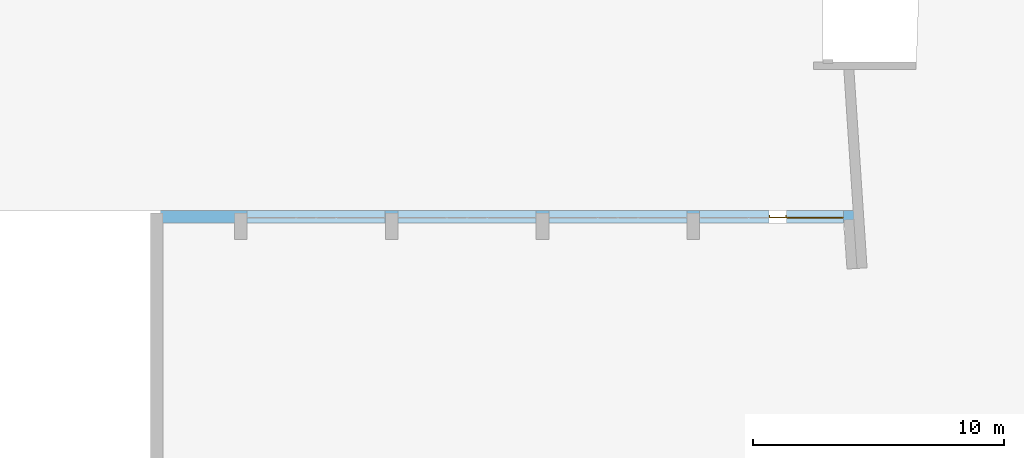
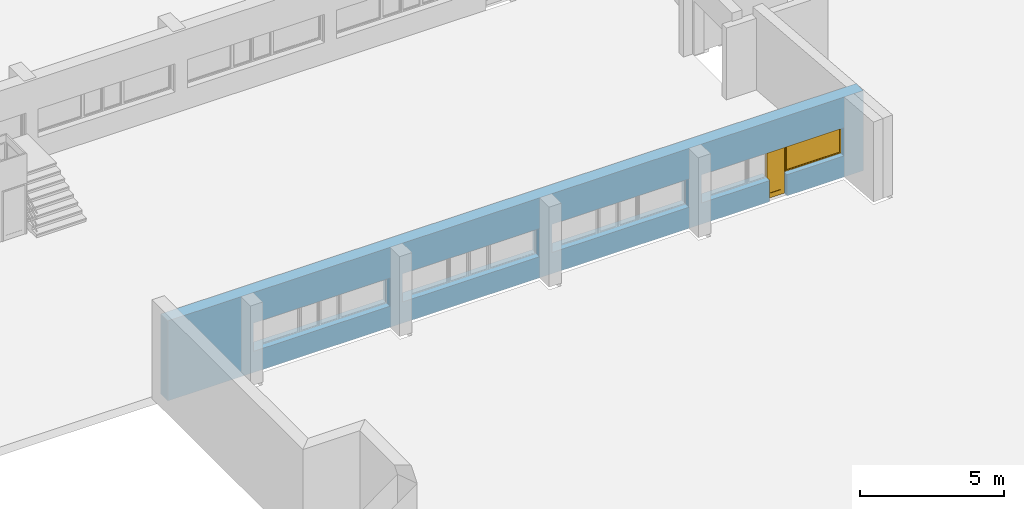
# One storey, part 18 of 36: 1 door, 1 window, 9 openings, plus 1 element that does not belong to this part.
"""IFC2X3 building model written with IfcOpenShell, lengths in millimetres."""

from ifc_helpers import new_model, entity, si_unit, converted_unit, money_unit, direction, frame, origin_with_axes, place, context, subcontext, project, spatial, polyline, outline, extrude, open_shell, faceted_brep, surface_model, material, material_list, layer, layer_set, layer_usage, type_object, element, fill, save


model = new_model("IFC2X3")

# Units and contexts
model_context = context("Model", 3, precision=1e-05, world=origin_with_axes(), true_north=direction((0.0, 1.0)))
body_context = subcontext(model_context, "Body", "Model", "MODEL_VIEW")
ifc_project = project(units=[si_unit("LENGTHUNIT", "METRE", prefix="MILLI"), si_unit("AREAUNIT", "SQUARE_METRE"), si_unit("VOLUMEUNIT", "CUBIC_METRE"), converted_unit("PLANEANGLEUNIT", "DEGREE", entity("IfcPlaneAngleMeasure", 0.0174532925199), si_unit("PLANEANGLEUNIT", "RADIAN"), dimensions=[0, 0, 0, 0, 0, 0, 0]), si_unit("SOLIDANGLEUNIT", "STERADIAN"), money_unit("USD"), converted_unit("TIMEUNIT", "Year", entity("IfcTimeMeasure", 31556926.0), si_unit("TIMEUNIT", "SECOND"), dimensions=[0, 0, 0, 0, 0, 0, 0]), si_unit("MASSUNIT", "GRAM"), si_unit("THERMODYNAMICTEMPERATUREUNIT", "DEGREE_CELSIUS"), si_unit("LUMINOUSINTENSITYUNIT", "LUMEN")], contexts=[model_context])

# Site, building, storey
site_placement = place(None, origin_with_axes())
site = spatial("IfcSite", under=ifc_project, at=site_placement, Name="Site", CompositionType="ELEMENT")
building_placement = place(site_placement, origin_with_axes())
building = spatial("IfcBuilding", under=site, at=building_placement, Name="Building", CompositionType="ELEMENT")
storey_placement = place(building_placement, frame((0.0, 0.0, -3400.0), z_axis=(0.0, 0.0, 1.0), x_axis=(1.0, 0.0, 0.0)))
storey = spatial("IfcBuildingStorey", under=building, at=storey_placement, Name="1KORRUS", CompositionType="ELEMENT", Elevation=-3400.0)

# Wall, openings, window, door
ifc_material_1 = material(Name="Olemasolevad seinad tellis, uus viimistlus")
ifc_layer = layer(ifc_material_1, 500.0, ventilated="UNKNOWN")
ifc_layer_set = layer_set([ifc_layer], Name="Olemasolevad seinad tellis, uus viimistlus 500")
ifc_layer_usage = layer_usage(ifc_layer_set, "AXIS2", "POSITIVE", -400.0)
wall_type = type_object("IfcWallType", Name="Olemasolevad seinad tellis, uus viimistlus 500", PredefinedType="NOTDEFINED")
wall_placement = place(storey_placement, frame((-9331.84569337, -19738.87569, 0.0), z_axis=(0.0, 0.0, 1.0), x_axis=(1.0, 0.0, 0.0)))
wall = element("IfcWallStandardCase", 1, at=wall_placement, inside=storey, type_object=wall_type, material=ifc_layer_usage, Name="VS1", ObjectType="VS1", context=body_context, shape_type="SweptSolid", body=[
    extrude(outline(polyline([(0.0, -400.0), (27956.8716013, -400.0), (27956.8716013, 100.0), (0.0, 100.0), (0.0, -400.0)])), origin_with_axes(), (0.0, 0.0, 1.0), 3400.0),
])
opening_1_placement = place(wall_placement, frame((19566.5489901, 0.0, 900.0), z_axis=(0.0, 0.0, 1.0), x_axis=(1.0, 0.0, 0.0)))
element("IfcOpeningElement", 2, at=opening_1_placement, cuts=wall, Name="Olemasolevad aknad jäävad", context=body_context, shape_type="SweptSolid", body=[
    extrude(outline(polyline([(-1375.0, 1200.0), (-1375.0, 0.0), (1375.0, 0.0), (1375.0, 1200.0), (-1375.0, 1200.0)])), frame((0.0, -200.0, 0.0), z_axis=(0.0, 1.0, 0.0), x_axis=(-1.0, 0.0, 0.0)), (0.0, 0.0, 1.0), 800.0),
    extrude(outline(polyline([(-1375.0, 0.0), (-1375.0, -1200.0), (1375.0, -1200.0), (1375.0, 0.0), (-1375.0, 0.0)])), frame((0.0, -200.0, 0.0), z_axis=(0.0, -1.0, 0.0), x_axis=(-1.0, 0.0, 0.0)), (0.0, 0.0, 1.0), 700.0),
])
opening_2_placement = place(wall_placement, frame((16816.5489901, 0.0, 900.0), z_axis=(0.0, 0.0, 1.0), x_axis=(1.0, 0.0, 0.0)))
element("IfcOpeningElement", 3, at=opening_2_placement, cuts=wall, Name="Olemasolevad aknad jäävad", context=body_context, shape_type="SweptSolid", body=[
    extrude(outline(polyline([(1375.0, 1200.0), (-1375.0, 1200.0), (-1375.0, 0.0), (1375.0, 0.0), (1375.0, 1200.0)])), frame((0.0, -200.0, 0.0), z_axis=(0.0, 1.0, 0.0), x_axis=(-1.0, 0.0, 0.0)), (0.0, 0.0, 1.0), 800.0),
    extrude(outline(polyline([(1375.0, 0.0), (-1375.0, 0.0), (-1375.0, -1200.0), (1375.0, -1200.0), (1375.0, 0.0)])), frame((0.0, -200.0, 0.0), z_axis=(0.0, -1.0, 0.0), x_axis=(-1.0, 0.0, 0.0)), (0.0, 0.0, 1.0), 700.0),
])
opening_3_placement = place(wall_placement, frame((13566.5489901, 0.0, 900.0), z_axis=(0.0, 0.0, 1.0), x_axis=(1.0, 0.0, 0.0)))
element("IfcOpeningElement", 4, at=opening_3_placement, cuts=wall, Name="Olemasolevad aknad jäävad", context=body_context, shape_type="SweptSolid", body=[
    extrude(outline(polyline([(-1375.0, 1200.0), (-1375.0, 0.0), (1375.0, 0.0), (1375.0, 1200.0), (-1375.0, 1200.0)])), frame((0.0, -200.0, 0.0), z_axis=(0.0, 1.0, 0.0), x_axis=(-1.0, 0.0, 0.0)), (0.0, 0.0, 1.0), 800.0),
    extrude(outline(polyline([(-1375.0, 0.0), (-1375.0, -1200.0), (1375.0, -1200.0), (1375.0, 0.0), (-1375.0, 0.0)])), frame((0.0, -200.0, 0.0), z_axis=(0.0, -1.0, 0.0), x_axis=(-1.0, 0.0, 0.0)), (0.0, 0.0, 1.0), 700.0),
])
opening_4_placement = place(wall_placement, frame((10816.5489901, 0.0, 900.0), z_axis=(0.0, 0.0, 1.0), x_axis=(1.0, 0.0, 0.0)))
element("IfcOpeningElement", 5, at=opening_4_placement, cuts=wall, Name="Olemasolevad aknad jäävad", context=body_context, shape_type="SweptSolid", body=[
    extrude(outline(polyline([(1375.0, 1200.0), (-1375.0, 1200.0), (-1375.0, 0.0), (1375.0, 0.0), (1375.0, 1200.0)])), frame((0.0, -200.0, 0.0), z_axis=(0.0, 1.0, 0.0), x_axis=(-1.0, 0.0, 0.0)), (0.0, 0.0, 1.0), 800.0),
    extrude(outline(polyline([(1375.0, 0.0), (-1375.0, 0.0), (-1375.0, -1200.0), (1375.0, -1200.0), (1375.0, 0.0)])), frame((0.0, -200.0, 0.0), z_axis=(0.0, -1.0, 0.0), x_axis=(-1.0, 0.0, 0.0)), (0.0, 0.0, 1.0), 700.0),
])
opening_5_placement = place(wall_placement, frame((7558.41773708, 0.0, 900.0), z_axis=(0.0, 0.0, 1.0), x_axis=(1.0, 0.0, 0.0)))
element("IfcOpeningElement", 6, at=opening_5_placement, cuts=wall, Name="Olemasolevad aknad jäävad", context=body_context, shape_type="SweptSolid", body=[
    extrude(outline(polyline([(-1375.0, 1200.0), (-1375.0, 0.0), (1375.0, 0.0), (1375.0, 1200.0), (-1375.0, 1200.0)])), frame((0.0, -200.0, 0.0), z_axis=(0.0, 1.0, 0.0), x_axis=(-1.0, 0.0, 0.0)), (0.0, 0.0, 1.0), 800.0),
    extrude(outline(polyline([(-1375.0, 0.0), (-1375.0, -1200.0), (1375.0, -1200.0), (1375.0, 0.0), (-1375.0, 0.0)])), frame((0.0, -200.0, 0.0), z_axis=(0.0, -1.0, 0.0), x_axis=(-1.0, 0.0, 0.0)), (0.0, 0.0, 1.0), 700.0),
])
opening_6_placement = place(wall_placement, frame((4816.54899006, 0.0, 900.0), z_axis=(0.0, 0.0, 1.0), x_axis=(1.0, 0.0, 0.0)))
element("IfcOpeningElement", 7, at=opening_6_placement, cuts=wall, Name="Olemasolevad aknad jäävad", context=body_context, shape_type="SweptSolid", body=[
    extrude(outline(polyline([(1375.0, 1200.0), (-1375.0, 1200.0), (-1375.0, 0.0), (1375.0, 0.0), (1375.0, 1200.0)])), frame((0.0, -200.0, 0.0), z_axis=(0.0, 1.0, 0.0), x_axis=(-1.0, 0.0, 0.0)), (0.0, 0.0, 1.0), 800.0),
    extrude(outline(polyline([(1375.0, 0.0), (-1375.0, 0.0), (-1375.0, -1200.0), (1375.0, -1200.0), (1375.0, 0.0)])), frame((0.0, -200.0, 0.0), z_axis=(0.0, -1.0, 0.0), x_axis=(-1.0, 0.0, 0.0)), (0.0, 0.0, 1.0), 700.0),
])
opening_7_placement = place(wall_placement, frame((22816.5489901, 0.0, 900.0), z_axis=(0.0, 0.0, 1.0), x_axis=(1.0, 0.0, 0.0)))
element("IfcOpeningElement", 8, at=opening_7_placement, cuts=wall, Name="Olemasolevad aknad jäävad", context=body_context, shape_type="SweptSolid", body=[
    extrude(outline(polyline([(1375.0, 1200.0), (-1375.0, 1200.0), (-1375.0, 0.0), (1375.0, 0.0), (1375.0, 1200.0)])), frame((0.0, -200.0, 0.0), z_axis=(0.0, 1.0, 0.0), x_axis=(-1.0, 0.0, 0.0)), (0.0, 0.0, 1.0), 800.0),
    extrude(outline(polyline([(1375.0, 0.0), (-1375.0, 0.0), (-1375.0, -1200.0), (1375.0, -1200.0), (1375.0, 0.0)])), frame((0.0, -200.0, 0.0), z_axis=(0.0, -1.0, 0.0), x_axis=(-1.0, 0.0, 0.0)), (0.0, 0.0, 1.0), 700.0),
])
opening_8_placement = place(wall_placement, frame((26032.4269663, 0.0, 900.0), z_axis=(0.0, 0.0, 1.0), x_axis=(1.0, 0.0, 0.0)))
opening_8 = element("IfcOpeningElement", 9, at=opening_8_placement, cuts=wall, Name="Olemasolevad aknad jäävad", context=body_context, shape_type="SweptSolid", body=[
    extrude(outline(polyline([(1140.806, 1200.0), (-1140.806, 1200.0), (-1140.806, 0.0), (1140.806, 0.0), (1140.806, 1200.0)])), frame((0.0, -200.0, 0.0), z_axis=(0.0, 1.0, 0.0), x_axis=(-1.0, 0.0, 0.0)), (0.0, 0.0, 1.0), 800.0),
    extrude(outline(polyline([(1140.806, 0.0), (-1140.806, 0.0), (-1140.806, -1200.0), (1140.806, -1200.0), (1140.806, 0.0)])), frame((0.0, -200.0, 0.0), z_axis=(0.0, -1.0, 0.0), x_axis=(-1.0, 0.0, 0.0)), (0.0, 0.0, 1.0), 700.0),
])
opening_9_placement = place(wall_placement, frame((24541.5489901, 0.0, -4.66441168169), z_axis=(0.0, 0.0, 1.0), x_axis=(1.0, 0.0, 0.0)))
opening_9 = element("IfcOpeningElement", 10, at=opening_9_placement, cuts=wall, Name="ava", context=body_context, shape_type="SweptSolid", body=[
    extrude(outline(polyline([(-350.0, 2100.0), (-350.0, 0.0), (350.0, 0.0), (350.0, 2100.0), (-350.0, 2100.0)])), frame((0.0, -200.0, 0.0), z_axis=(0.0, 1.0, 0.0), x_axis=(-1.0, 0.0, 0.0)), (0.0, 0.0, 1.0), 800.0),
    extrude(outline(polyline([(-350.0, 0.0), (-350.0, -2100.0), (350.0, -2100.0), (350.0, 0.0), (-350.0, 0.0)])), frame((0.0, -200.0, 0.0), z_axis=(0.0, -1.0, 0.0), x_axis=(-1.0, 0.0, 0.0)), (0.0, 0.0, 1.0), 700.0),
])
ifc_material_2 = material(Name="Background")
ifc_material_list = material_list([ifc_material_2])
window_style = type_object("IfcWindowStyle", Name="Window 19", ConstructionType="NOTDEFINED", OperationType="SINGLE_PANEL", ParameterTakesPrecedence=False, Sizeable=False)
window_placement = place(opening_8_placement, frame((1140.80638881, 0.0, 0.0), z_axis=(0.0, 0.0, 1.0), x_axis=(-1.0, 0.0, 0.0)))
window = element("IfcWindow", 11, at=window_placement, inside=storey, type_object=window_style, material=ifc_material_list, Name="Olemasolevad aknad jäävad", ObjectType="Olemasolevad aknad jäävad", OverallHeight=1200.0, OverallWidth=2281.61, context=body_context, shape_type="SurfaceModel", body=[
    faceted_brep([(2256.613, 200.0, 1150.0), (2256.613, 175.0, 1150.0), (2231.613, 175.0, 1150.0), (2231.613, 150.0, 1150.0), (2281.613, 150.0, 1150.0), (2281.613, 200.0, 1150.0), (2256.613, 200.0, 50.0), (2256.613, 175.0, 50.0), (2231.613, 175.0, 50.0), (2231.613, 150.0, 50.0), (2281.613, 150.0, 50.0), (2281.613, 200.0, 50.0)], [[[0, 1, 2, 3, 4, 5]], [[1, 0, 6, 7]], [[8, 2, 1, 7]], [[2, 8, 9, 3]], [[4, 3, 9, 10]], [[5, 4, 10, 11]], [[6, 0, 5, 11]], [[7, 6, 11, 10, 9, 8]]]),
    faceted_brep([(50.0, 175.0, 1150.0), (25.0, 175.0, 1150.0), (25.0, 200.0, 1150.0), (0.0, 200.0, 1150.0), (0.0, 150.0, 1150.0), (50.0, 150.0, 1150.0), (50.0, 175.0, 50.0), (25.0, 175.0, 50.0), (25.0, 200.0, 50.0), (0.0, 200.0, 50.0), (0.0, 150.0, 50.0), (50.0, 150.0, 50.0)], [[[0, 1, 2, 3, 4, 5]], [[1, 0, 6, 7]], [[8, 2, 1, 7]], [[2, 8, 9, 3]], [[9, 10, 4, 3]], [[10, 11, 5, 4]], [[6, 0, 5, 11]], [[7, 6, 11, 10, 9, 8]]]),
    faceted_brep([(50.0, 175.0, 50.0), (25.0, 175.0, 50.0), (25.0, 200.0, 50.0), (0.0, 200.0, 50.0), (0.0, 150.0, 50.0), (50.0, 150.0, 50.0), (2231.613, 175.0, 50.0), (2256.613, 175.0, 50.0), (2256.613, 175.0, 25.0), (25.0, 175.0, 25.0), (25.0, 200.0, 25.0), (2256.613, 200.0, 25.0), (2256.613, 200.0, 50.0), (2281.613, 200.0, 50.0), (2281.613, 200.0, 0.0), (0.0, 200.0, 0.0), (0.0, 150.0, 0.0), (2281.613, 150.0, 50.0), (2231.613, 150.0, 50.0), (2281.613, 150.0, 0.0)], [[[0, 1, 2, 3, 4, 5]], [[1, 0, 6, 7, 8, 9]], [[10, 2, 1, 9]], [[11, 12, 13, 14, 15, 3, 2, 10]], [[15, 16, 4, 3]], [[17, 18, 5, 4, 16, 19]], [[6, 0, 5, 18]], [[7, 6, 18, 17, 13, 12]], [[7, 12, 11, 8]], [[11, 10, 9, 8]], [[13, 17, 19, 14]], [[14, 19, 16, 15]]]),
    faceted_brep([(2256.613, 200.0, 1150.0), (2256.613, 200.0, 1175.0), (25.0, 200.0, 1175.0), (25.0, 200.0, 1150.0), (0.0, 200.0, 1150.0), (0.0, 200.0, 1200.0), (2281.613, 200.0, 1200.0), (2281.613, 200.0, 1150.0), (2256.613, 175.0, 1150.0), (2256.613, 175.0, 1175.0), (25.0, 175.0, 1175.0), (25.0, 175.0, 1150.0), (50.0, 175.0, 1150.0), (50.0, 150.0, 1150.0), (0.0, 150.0, 1150.0), (0.0, 150.0, 1200.0), (2281.613, 150.0, 1200.0), (2281.613, 150.0, 1150.0), (2231.613, 150.0, 1150.0), (2231.613, 175.0, 1150.0)], [[[0, 1, 2, 3, 4, 5, 6, 7]], [[1, 0, 8, 9]], [[2, 1, 9, 10]], [[3, 2, 10, 11]], [[11, 12, 13, 14, 4, 3]], [[4, 14, 15, 5]], [[5, 15, 16, 6]], [[6, 16, 17, 7]], [[8, 0, 7, 17, 18, 19]], [[12, 11, 10, 9, 8, 19]], [[12, 19, 18, 13]], [[14, 13, 18, 17, 16, 15]]]),
    faceted_brep([(2206.613, 175.0, 1125.0), (2256.613, 175.0, 1125.0), (2256.613, 225.0, 1125.0), (2206.613, 225.0, 1125.0), (2206.613, 175.0, 75.0), (2256.613, 175.0, 75.0), (2256.613, 225.0, 75.0), (2206.613, 225.0, 75.0)], [[[0, 1, 2, 3]], [[0, 4, 5, 1]], [[1, 5, 6, 2]], [[3, 2, 6, 7]], [[4, 0, 3, 7]], [[5, 4, 7, 6]]]),
    faceted_brep([(75.0, 175.0, 75.0), (25.0, 175.0, 75.0), (25.0, 225.0, 75.0), (75.0, 225.0, 75.0), (75.0, 175.0, 1125.0), (25.0, 175.0, 1125.0), (25.0, 225.0, 1125.0), (75.0, 225.0, 1125.0)], [[[0, 1, 2, 3]], [[0, 4, 5, 1]], [[1, 5, 6, 2]], [[3, 2, 6, 7]], [[4, 0, 3, 7]], [[5, 4, 7, 6]]]),
    faceted_brep([(25.0, 175.0, 25.0), (25.0, 175.0, 75.0), (25.0, 225.0, 75.0), (25.0, 225.0, 25.0), (2256.613, 175.0, 25.0), (2256.613, 175.0, 75.0), (2206.613, 175.0, 75.0), (75.0, 175.0, 75.0), (75.0, 225.0, 75.0), (2206.613, 225.0, 75.0), (2256.613, 225.0, 75.0), (2256.613, 225.0, 25.0)], [[[0, 1, 2, 3]], [[0, 4, 5, 6, 7, 1]], [[1, 7, 8, 2]], [[3, 2, 8, 9, 10, 11]], [[4, 0, 3, 11]], [[5, 4, 11, 10]], [[6, 5, 10, 9]], [[7, 6, 9, 8]]]),
    faceted_brep([(2256.613, 175.0, 1175.0), (2256.613, 175.0, 1125.0), (2256.613, 225.0, 1125.0), (2256.613, 225.0, 1175.0), (25.0, 175.0, 1175.0), (25.0, 175.0, 1125.0), (75.0, 175.0, 1125.0), (2206.613, 175.0, 1125.0), (2206.613, 225.0, 1125.0), (75.0, 225.0, 1125.0), (25.0, 225.0, 1125.0), (25.0, 225.0, 1175.0)], [[[0, 1, 2, 3]], [[0, 4, 5, 6, 7, 1]], [[1, 7, 8, 2]], [[3, 2, 8, 9, 10, 11]], [[4, 0, 3, 11]], [[5, 4, 11, 10]], [[6, 5, 10, 9]], [[7, 6, 9, 8]]]),
    surface_model("IfcShellBasedSurfaceModel", [(2206.613, 190.0, 75.0), (2206.613, 190.0, 1125.0), (75.0, 190.0, 1125.0), (75.0, 190.0, 75.0)], [open_shell([[[0, 1, 2, 3]]])]),
    surface_model("IfcShellBasedSurfaceModel", [(2206.613, 210.0, 75.0), (75.0, 210.0, 75.0), (75.0, 210.0, 1125.0), (2206.613, 210.0, 1125.0)], [open_shell([[[0, 1, 2, 3]]])]),
])
fill(opening_8, window)
door_style = type_object("IfcDoorStyle", Name="Door 19", ConstructionType="NOTDEFINED", OperationType="SINGLE_SWING_RIGHT", ParameterTakesPrecedence=False, Sizeable=False)
door_placement = place(opening_9_placement, frame((350.0, 0.0, 0.0), z_axis=(0.0, 0.0, 1.0), x_axis=(-1.0, 0.0, 0.0)))
door = element("IfcDoor", 12, at=door_placement, inside=storey, type_object=door_style, material=ifc_material_list, Name="ava", ObjectType="door", OverallHeight=2100.0, OverallWidth=700.0, context=body_context, shape_type="SurfaceModel", body=[
    faceted_brep([(40.0, 160.0, 0.0), (40.0, 160.0, 2060.0), (40.0, 85.0, 2060.0), (40.0, 85.0, 0.0), (28.0, 160.0, 2060.0), (28.0, 160.0, 0.0), (28.0, 200.0, 2060.0), (0.0, 200.0, 2060.0), (0.0, 85.0, 2060.0), (0.0, 85.0, 0.0), (0.0, 200.0, 0.0), (28.0, 200.0, 0.0)], [[[0, 1, 2, 3]], [[4, 1, 0, 5]], [[4, 6, 7, 8, 2, 1]], [[2, 8, 9, 3]], [[5, 0, 3, 9, 10, 11]], [[6, 4, 5, 11]], [[6, 11, 10, 7]], [[9, 8, 7, 10]]]),
    faceted_brep([(672.0, 160.0, 2060.0), (660.0, 160.0, 2060.0), (660.0, 85.0, 2060.0), (700.0, 85.0, 2060.0), (700.0, 200.0, 2060.0), (672.0, 200.0, 2060.0), (672.0, 160.0, 0.0), (660.0, 160.0, 0.0), (660.0, 85.0, 0.0), (700.0, 85.0, 0.0), (700.0, 200.0, 0.0), (672.0, 200.0, 0.0)], [[[0, 1, 2, 3, 4, 5]], [[1, 0, 6, 7]], [[1, 7, 8, 2]], [[2, 8, 9, 3]], [[3, 9, 10, 4]], [[11, 5, 4, 10]], [[0, 5, 11, 6]], [[6, 11, 10, 9, 8, 7]]]),
    faceted_brep([(28.0, 200.0, 2072.0), (28.0, 200.0, 2060.0), (0.0, 200.0, 2060.0), (0.0, 200.0, 2100.0), (700.0, 200.0, 2100.0), (700.0, 200.0, 2060.0), (672.0, 200.0, 2060.0), (672.0, 200.0, 2072.0), (28.0, 160.0, 2072.0), (28.0, 160.0, 2060.0), (40.0, 160.0, 2060.0), (40.0, 85.0, 2060.0), (0.0, 85.0, 2060.0), (0.0, 85.0, 2100.0), (700.0, 85.0, 2100.0), (700.0, 85.0, 2060.0), (672.0, 160.0, 2060.0), (660.0, 85.0, 2060.0), (660.0, 160.0, 2060.0), (672.0, 160.0, 2072.0)], [[[0, 1, 2, 3, 4, 5, 6, 7]], [[1, 0, 8, 9]], [[9, 10, 11, 12, 2, 1]], [[12, 13, 3, 2]], [[13, 14, 4, 3]], [[14, 15, 5, 4]], [[16, 6, 5, 15, 17, 18]], [[7, 6, 16, 19]], [[0, 7, 19, 8]], [[16, 18, 10, 9, 8, 19]], [[10, 18, 17, 11]], [[15, 14, 13, 12, 11, 17]]]),
    faceted_brep([(672.0, 200.0, 200.0), (672.0, 160.0, 200.0), (572.0, 160.0, 200.0), (572.0, 200.0, 200.0), (672.0, 200.0, 1972.0), (672.0, 160.0, 1972.0), (572.0, 160.0, 1972.0), (572.0, 200.0, 1972.0)], [[[0, 1, 2, 3]], [[4, 5, 1, 0]], [[1, 5, 6, 2]], [[3, 2, 6, 7]], [[0, 3, 7, 4]], [[7, 6, 5, 4]]]),
    faceted_brep([(28.0, 200.0, 200.0), (28.0, 160.0, 200.0), (28.0, 160.0, 1972.0), (28.0, 200.0, 1972.0), (128.0, 200.0, 200.0), (128.0, 160.0, 200.0), (128.0, 160.0, 1972.0), (128.0, 200.0, 1972.0)], [[[0, 1, 2, 3]], [[4, 5, 1, 0]], [[1, 5, 6, 2]], [[3, 2, 6, 7]], [[0, 3, 7, 4]], [[7, 6, 5, 4]]]),
    faceted_brep([(672.0, 200.0, 0.0), (672.0, 160.0, 0.0), (28.0, 160.0, 0.0), (28.0, 200.0, 0.0), (672.0, 200.0, 200.0), (672.0, 160.0, 200.0), (572.0, 160.0, 200.0), (128.0, 160.0, 200.0), (28.0, 160.0, 200.0), (28.0, 200.0, 200.0), (128.0, 200.0, 200.0), (572.0, 200.0, 200.0)], [[[0, 1, 2, 3]], [[4, 5, 1, 0]], [[1, 5, 6, 7, 8, 2]], [[3, 2, 8, 9]], [[0, 3, 9, 10, 11, 4]], [[11, 6, 5, 4]], [[10, 7, 6, 11]], [[9, 8, 7, 10]]]),
    faceted_brep([(672.0, 200.0, 2072.0), (672.0, 160.0, 2072.0), (672.0, 160.0, 1972.0), (672.0, 200.0, 1972.0), (28.0, 200.0, 2072.0), (28.0, 160.0, 2072.0), (28.0, 160.0, 1972.0), (128.0, 160.0, 1972.0), (572.0, 160.0, 1972.0), (572.0, 200.0, 1972.0), (128.0, 200.0, 1972.0), (28.0, 200.0, 1972.0)], [[[0, 1, 2, 3]], [[4, 5, 1, 0]], [[1, 5, 6, 7, 8, 2]], [[3, 2, 8, 9]], [[0, 3, 9, 10, 11, 4]], [[11, 6, 5, 4]], [[10, 7, 6, 11]], [[9, 8, 7, 10]]]),
    surface_model("IfcShellBasedSurfaceModel", [(572.0, 186.0, 200.0), (128.0, 186.0, 200.0), (128.0, 186.0, 1972.0), (572.0, 186.0, 1972.0)], [open_shell([[[0, 1, 2, 3]]])]),
    surface_model("IfcShellBasedSurfaceModel", [(572.0, 174.0, 200.0), (572.0, 174.0, 1972.0), (128.0, 174.0, 1972.0), (128.0, 174.0, 200.0)], [open_shell([[[0, 1, 2, 3]]])]),
])
fill(opening_9, door)

save(model, "model.ifc")
